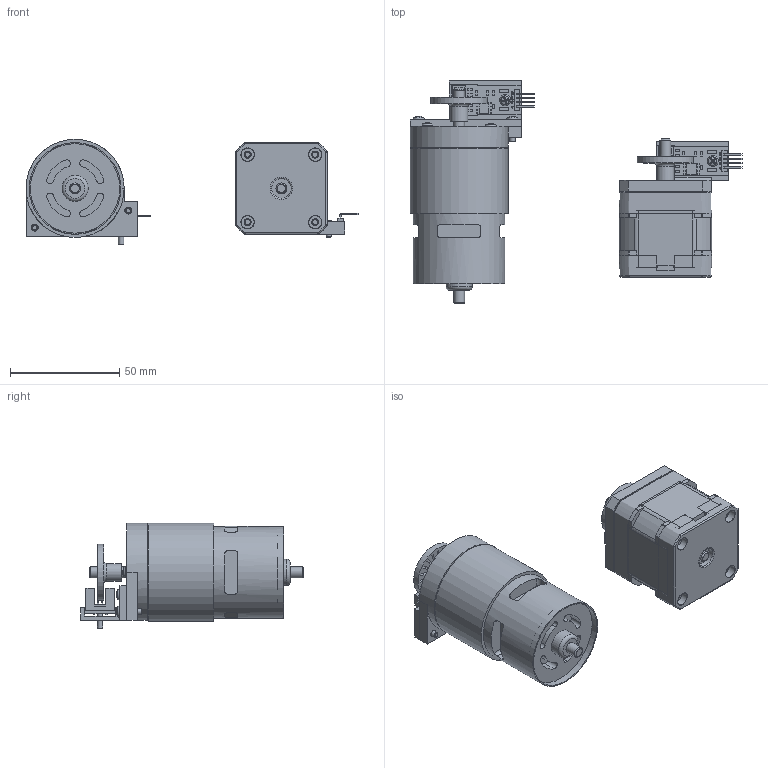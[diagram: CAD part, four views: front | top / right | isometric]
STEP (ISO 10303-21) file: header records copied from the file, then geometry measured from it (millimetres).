
FILE_DESCRIPTION(/* description */ (''),/* implementation_level */ '2;1');
FILE_NAME(/* name */ 'C:\Users\x300\Desktop\inventor\stepper_speed\Assieme_775_nema17.stp',/* time_stamp */ '2023-05-17T13:31:51+02:00',/* author */ ('x300'),/* organization */ (''),/* preprocessor_version */ 'ST-DEVELOPER v19',/* originating_system */ 'Autodesk Inventor 2023',/* authorisation */ '');
FILE_SCHEMA (('AUTOMOTIVE_DESIGN { 1 0 10303 214 3 1 1 }'));
Length unit declared in the file: millimetre
Products named in the file (12): Assieme2; supporto_sensore_01; nema17; AS 1420 - 1973 - M3 x 10; AS 1427 - M2,5 x 6; 775-dc-motor; supporto_775_01; supporto_sensore_02; Lm393 Motor Speed Measuring Sensor Module; disco_forato_01; AS 1427 - M2,5 x 10; AS 1427 - M2,5 x 8
Assembly tree (18 placements, depth 2):
  Assieme2
    disco_forato_01  x2
    supporto_sensore_01
    nema17
    Lm393 Motor Speed Measuring Sensor Module  x2
    AS 1420 - 1973 - M3 x 10  x3
    AS 1427 - M2,5 x 6
    775-dc-motor
    supporto_775_01
    supporto_sensore_02
    AS 1427 - M2,5 x 10  x4
    AS 1427 - M2,5 x 8
Bounding box: 152.16 x 102 x 48.3 mm (x, y, z)
Volume: 172238.4 mm3; surface area: 60951.7 mm2
Topology: 24 solids, 24 shells, 2845 faces, 7612 edges, 5018 vertices
Faces by surface type: plane 1721, bspline 754, cylinder 197, cone 97, torus 54, sphere 22
Full cylindrical faces by diameter (mm): 0.5 x2, 2.224 x6, 2.5 x11, 3 x12, 3.2 x11, 3.5 x4, 5 x4, 5.5 x3, 6 x7, 8 x2, 9 x2, 12 x1, 16 x2, 22 x1, 25 x1, 25.8 x2, 35 x1, 41 x1, 42 x2
Entity records: 67240 total; most frequent: CARTESIAN_POINT 28671, ORIENTED_EDGE 8508, DIRECTION 6393, EDGE_CURVE 4254, LINE 2823, VECTOR 2823, VERTEX_POINT 2799, EDGE_LOOP 1823
